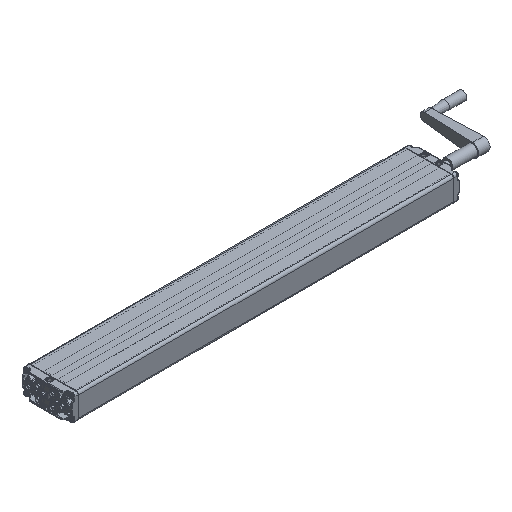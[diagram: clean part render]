
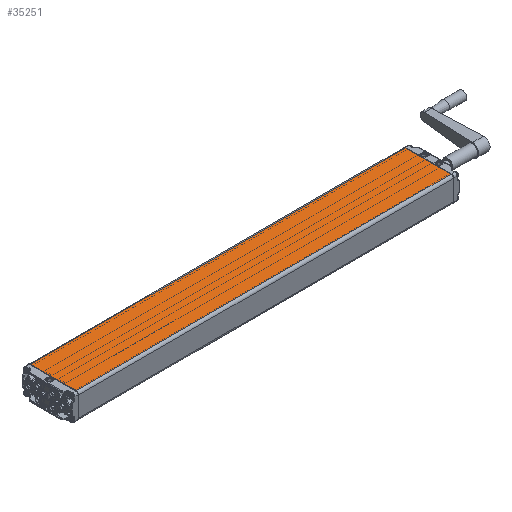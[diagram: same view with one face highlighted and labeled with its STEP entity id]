
A CAD part, isometric view. The second image highlights one B-rep face of the part: STEP entity #35251.
In plain terms, the highlighted planar face has unit normal (0, 0, 1).
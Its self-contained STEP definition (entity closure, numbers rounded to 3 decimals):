
#3668=LINE('',#75802,#5027);
#3669=LINE('',#75805,#5028);
#3670=LINE('',#75807,#5029);
#3671=LINE('',#75809,#5030);
#5027=VECTOR('',#43030,1000.);
#5028=VECTOR('',#43031,1000.);
#5029=VECTOR('',#43032,1000.);
#5030=VECTOR('',#43033,1000.);
#10637=ORIENTED_EDGE('',*,*,#16848,.T.);
#10638=ORIENTED_EDGE('',*,*,#16849,.T.);
#10639=ORIENTED_EDGE('',*,*,#16850,.T.);
#10640=ORIENTED_EDGE('',*,*,#16851,.T.);
#16848=EDGE_CURVE('',#20212,#20213,#3668,.F.);
#16849=EDGE_CURVE('',#20213,#20214,#3669,.T.);
#16850=EDGE_CURVE('',#20214,#20215,#3670,.T.);
#16851=EDGE_CURVE('',#20215,#20212,#3671,.F.);
#20212=VERTEX_POINT('',#75803);
#20213=VERTEX_POINT('',#75804);
#20214=VERTEX_POINT('',#75806);
#20215=VERTEX_POINT('',#75808);
#23883=EDGE_LOOP('',(#10637,#10638,#10639,#10640));
#25991=FACE_BOUND('',#23883,.T.);
#27177=PLANE('',#37690);
#35251=ADVANCED_FACE('',(#25991),#27177,.T.);
#37690=AXIS2_PLACEMENT_3D('',#75801,#43028,#43029);
#43028=DIRECTION('',(0.,0.,1.));
#43029=DIRECTION('',(1.,0.,0.));
#43030=DIRECTION('',(0.,-1.,0.));
#43031=DIRECTION('',(-1.,0.,0.));
#43032=DIRECTION('',(0.,-1.,0.));
#43033=DIRECTION('',(-1.,0.,0.));
#75801=CARTESIAN_POINT('',(60.,893.5,30.));
#75802=CARTESIAN_POINT('',(54.,893.5,30.));
#75803=CARTESIAN_POINT('',(54.,0.5,30.));
#75804=CARTESIAN_POINT('',(54.,893.,30.));
#75805=CARTESIAN_POINT('',(60.,893.,30.));
#75806=CARTESIAN_POINT('',(-54.,893.,30.));
#75807=CARTESIAN_POINT('',(-54.,893.5,30.));
#75808=CARTESIAN_POINT('',(-54.,0.5,30.));
#75809=CARTESIAN_POINT('',(54.,0.5,30.));
